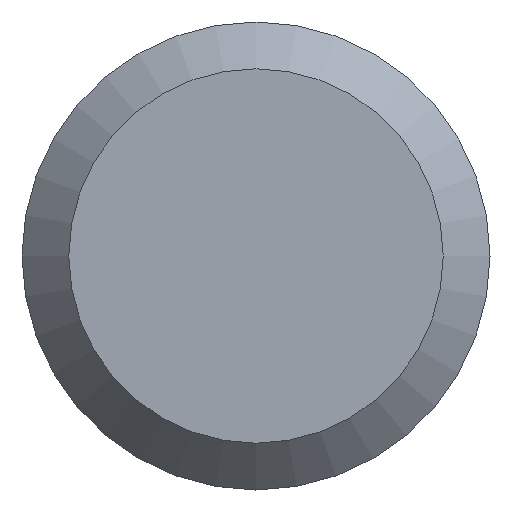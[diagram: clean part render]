
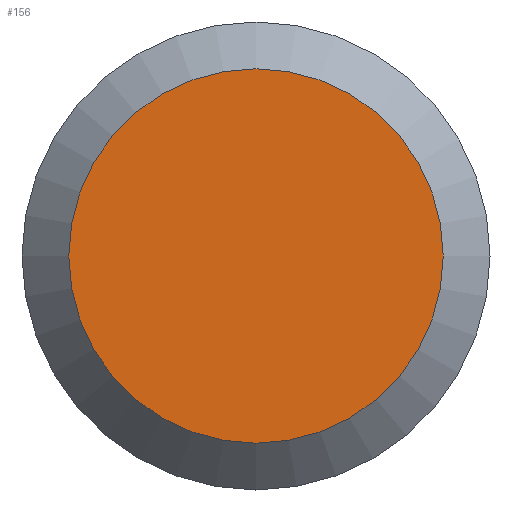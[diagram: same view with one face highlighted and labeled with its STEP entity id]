
A CAD part, left-side view. The second image highlights one B-rep face of the part: STEP entity #156.
In plain terms, the highlighted planar face has unit normal (-1, 0, 0).
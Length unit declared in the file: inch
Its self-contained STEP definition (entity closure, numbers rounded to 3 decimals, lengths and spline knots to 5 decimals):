
#19 = DIRECTION ( 'NONE',  ( 0., 0., -1. ) ) ;
#58 = AXIS2_PLACEMENT_3D ( 'NONE', #217, #106, #227 ) ;
#69 = PLANE ( 'NONE',  #178 ) ;
#73 = EDGE_CURVE ( 'NONE', #111, #111, #158, .T. ) ;
#77 = EDGE_LOOP ( 'NONE', ( #182 ) ) ;
#106 = DIRECTION ( 'NONE',  ( -1., 0., 0. ) ) ;
#110 = CARTESIAN_POINT ( 'NONE',  ( 0., 0.0955, 0. ) ) ;
#111 = VERTEX_POINT ( 'NONE', #181 ) ;
#143 = FACE_OUTER_BOUND ( 'NONE', #77, .T. ) ;
#156 = ADVANCED_FACE ( 'NONE', ( #143 ), #69, .F. ) ;
#158 = CIRCLE ( 'NONE', #58, 0.0764 ) ;
#178 = AXIS2_PLACEMENT_3D ( 'NONE', #110, #242, #19 ) ;
#181 = CARTESIAN_POINT ( 'NONE',  ( 0., 0., -0.0764 ) ) ;
#182 = ORIENTED_EDGE ( 'NONE', *, *, #73, .T. ) ;
#217 = CARTESIAN_POINT ( 'NONE',  ( 0., 0., 0. ) ) ;
#227 = DIRECTION ( 'NONE',  ( 0., 0., -1. ) ) ;
#242 = DIRECTION ( 'NONE',  ( 1., 0., 0. ) ) ;
